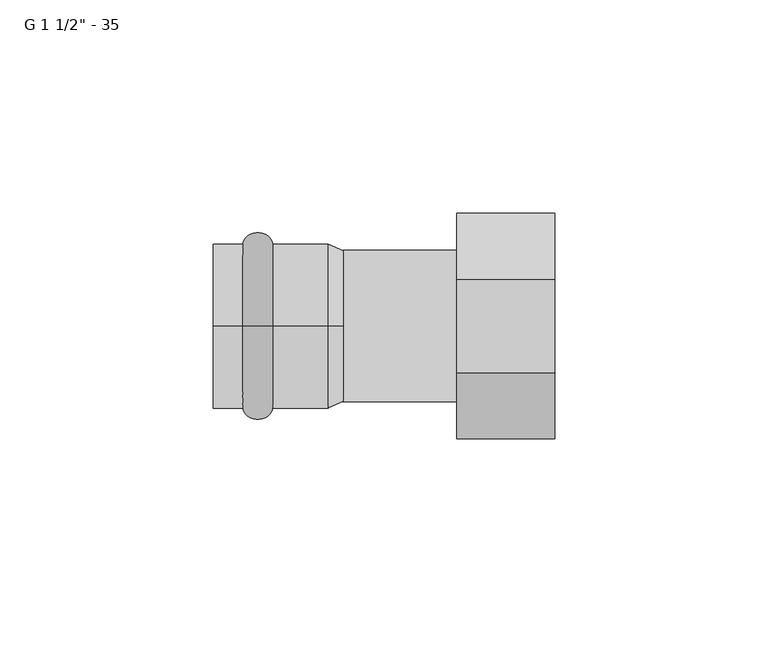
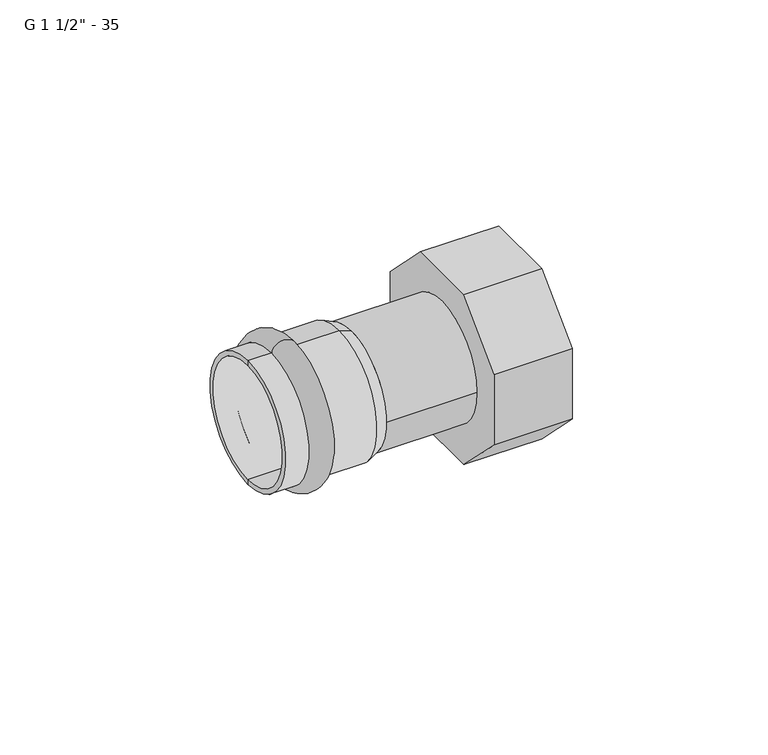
"""IFC4 building model written with IfcOpenShell, lengths in millimetres: pipe fitting geometry."""

import ifcopenshell
import ifcopenshell.guid

model = None  # the IFC model being written
_history = None  # IfcOwnerHistory: only IFC2X3 demands one
_inside = {}  # id of a spatial element -> (the spatial element, [elements in it])
_under = {}  # id of a project, library or spatial element -> (it, [spatial elements below it])
_declared = {}  # id of a project -> (the project, [libraries it declares])
_typed = {}  # id of a type object -> (the type object, [elements of that type])
_made_of = {}  # id of a material, layer set ... -> (it, [elements and type objects made of it])


def new_model(schema):
    """Start an empty IFC model of exactly this schema.

    Asked for "IFC4X3", IfcOpenShell would pick the latest addendum, in which some entities
    have other attributes; the version numbers below select the first issue.
    IFC2X3 requires an IfcOwnerHistory on every rooted entity: one is made here for all.
    """
    global model, _history
    if schema == "IFC4X3":
        model = ifcopenshell.file(schema_version=(4, 3, 0, 0))
    else:
        model = ifcopenshell.file(schema=schema)
    _inside.clear()
    _under.clear()
    _declared.clear()
    _typed.clear()
    _made_of.clear()
    _history = None
    if model.schema == "IFC2X3":
        org = make("IfcOrganization", Name="unknown")
        user = make(
            "IfcPersonAndOrganization",
            ThePerson=make("IfcPerson", FamilyName="unknown"),
            TheOrganization=org,
        )
        app = make(
            "IfcApplication",
            ApplicationDeveloper=org,
            Version="unknown",
            ApplicationFullName="unknown",
            ApplicationIdentifier="unknown",
        )
        _history = make(
            "IfcOwnerHistory",
            OwningUser=user,
            OwningApplication=app,
            ChangeAction="ADDED",
            CreationDate=0,
        )
    return model


def make(cls, **values):
    """One entity of the class cls with the attributes given. An attribute that is None is left unset."""
    return model.create_entity(
        cls, **{name: value for name, value in values.items() if value is not None}
    )


def rooted(cls, **values):
    """An entity with a GlobalId (a new one), such as an element, a storey or a relation."""
    return make(cls, GlobalId=ifcopenshell.guid.new(), OwnerHistory=_history, **values)


def si_unit(unit_type, name, prefix=None):
    """IfcSIUnit, for example si_unit("LENGTHUNIT", "METRE", prefix="MILLI")."""
    return make("IfcSIUnit", UnitType=unit_type, Prefix=prefix, Name=name)


def assignment(units):
    """IfcUnitAssignment: the units of a project."""
    return None if units is None else make("IfcUnitAssignment", Units=units)


def point(xyz):
    """IfcCartesianPoint."""
    return None if xyz is None else make("IfcCartesianPoint", Coordinates=xyz)


def direction(xyz):
    """IfcDirection."""
    return None if xyz is None else make("IfcDirection", DirectionRatios=xyz)


def frame(location, z_axis=None, x_axis=None):
    """IfcAxis2Placement3D, a coordinate frame: its origin and axes. An axis left out is left unset."""
    return make(
        "IfcAxis2Placement3D",
        Location=point(location),
        Axis=direction(z_axis),
        RefDirection=direction(x_axis),
    )


def frame_2d(location, x_axis=None):
    """IfcAxis2Placement2D, a coordinate frame in the plane: its origin and x axis."""
    return make(
        "IfcAxis2Placement2D", Location=point(location), RefDirection=direction(x_axis)
    )


def origin():
    """The frame at (0, 0, 0) with its axes left unset."""
    return frame((0.0, 0.0, 0.0))


def origin_2d():
    """The frame at (0, 0) in the plane with its x axis left unset."""
    return frame_2d((0.0, 0.0))


def place(relative_to, where):
    """IfcLocalPlacement: puts the frame where relative to a parent placement (None: the world)."""
    return make(
        "IfcLocalPlacement", PlacementRelTo=relative_to, RelativePlacement=where
    )


def context(
    kind, dimensions, precision=None, world=None, true_north=None, identifier=None
):
    """IfcGeometricRepresentationContext, for example the 3D "Model" context."""
    return make(
        "IfcGeometricRepresentationContext",
        ContextIdentifier=identifier,
        ContextType=kind,
        CoordinateSpaceDimension=dimensions,
        Precision=precision,
        WorldCoordinateSystem=world,
        TrueNorth=true_north,
    )


def project(units=None, contexts=None):
    """IfcProject with its units and contexts."""
    return rooted(
        "IfcProject",
        Name="project",
        RepresentationContexts=contexts,
        UnitsInContext=assignment(units),
    )


def spatial(cls, under=None, at=None, **own):
    """A site, building, storey or space (cls), placed at a placement, below another one or the project."""
    s = rooted(cls, ObjectPlacement=at, **own)
    if under is not None:
        _under.setdefault(under.id(), (under, []))[1].append(s)
    return s


def polyline(points):
    """IfcPolyline through the points."""
    return make("IfcPolyline", Points=[point(p) for p in points])


def circle_curve(where, radius):
    """IfcCircle in the frame where."""
    return make("IfcCircle", Position=where, Radius=radius)


def ellipse_curve(where, semi_axis1, semi_axis2):
    """IfcEllipse in the frame where."""
    return make(
        "IfcEllipse", Position=where, SemiAxis1=semi_axis1, SemiAxis2=semi_axis2
    )


def trimmed(basis, trim1, trim2, sense, master):
    """IfcTrimmedCurve: the piece of a basis curve between two trims."""
    return make(
        "IfcTrimmedCurve",
        BasisCurve=basis,
        Trim1=trim1,
        Trim2=trim2,
        SenseAgreement=sense,
        MasterRepresentation=master,
    )


def segment(curve, same_sense, transition):
    """IfcCompositeCurveSegment."""
    return make(
        "IfcCompositeCurveSegment",
        Transition=transition,
        SameSense=same_sense,
        ParentCurve=curve,
    )


def composite_curve(segments, self_intersect=None):
    """IfcCompositeCurve: segments joined end to end."""
    return make("IfcCompositeCurve", Segments=segments, SelfIntersect=self_intersect)


def outline(outer, holes=None, kind="AREA"):
    """IfcArbitraryClosedProfileDef: a profile drawn as a closed curve; with holes, ...WithVoids."""
    if holes is None:
        return make("IfcArbitraryClosedProfileDef", ProfileType=kind, OuterCurve=outer)
    return make(
        "IfcArbitraryProfileDefWithVoids",
        ProfileType=kind,
        OuterCurve=outer,
        InnerCurves=holes,
    )


def extrude(swept, where, along, depth):
    """IfcExtrudedAreaSolid: the profile swept, set in the frame where, extruded along a direction by depth."""
    return make(
        "IfcExtrudedAreaSolid",
        SweptArea=swept,
        Position=where,
        ExtrudedDirection=direction(along),
        Depth=depth,
    )


def shape(context_of_items, identifier, shape_type, items):
    """IfcShapeRepresentation: the items that make up one representation, for example the "Body"."""
    return make(
        "IfcShapeRepresentation",
        ContextOfItems=context_of_items,
        RepresentationIdentifier=identifier,
        RepresentationType=shape_type,
        Items=items,
    )


def source(mapping_origin, context_of_items, identifier, shape_type, items):
    """IfcRepresentationMap: a shape defined once, which mapped items show again and again."""
    return make(
        "IfcRepresentationMap",
        MappingOrigin=mapping_origin,
        MappedRepresentation=shape(context_of_items, identifier, shape_type, items),
    )


def transform(
    local_origin,
    x_axis=None,
    y_axis=None,
    z_axis=None,
    scale=None,
    scale2=None,
    scale3=None,
    uniform=True,
):
    """IfcCartesianTransformationOperator3D, or its non-uniform kind. x_axis, y_axis, z_axis: its Axis1, 2, 3."""
    if uniform:
        return make(
            "IfcCartesianTransformationOperator3D",
            Axis1=direction(x_axis),
            Axis2=direction(y_axis),
            LocalOrigin=point(local_origin),
            Scale=scale,
            Axis3=direction(z_axis),
        )
    return make(
        "IfcCartesianTransformationOperator3DnonUniform",
        Axis1=direction(x_axis),
        Axis2=direction(y_axis),
        LocalOrigin=point(local_origin),
        Scale=scale,
        Axis3=direction(z_axis),
        Scale2=scale2,
        Scale3=scale3,
    )


def mapped(mapping_source, mapping_target):
    """IfcMappedItem: shows the shape of a source again, moved by a transform."""
    return make(
        "IfcMappedItem", MappingSource=mapping_source, MappingTarget=mapping_target
    )


def made_of(thing, what):
    """Note that an element or type object is made of a material, layer set ...; save() writes the relation."""
    if what is not None:
        _made_of.setdefault(what.id(), (what, []))[1].append(thing)
    return thing


def element(
    cls,
    number,
    at=None,
    inside=None,
    cuts=None,
    type_object=None,
    material=None,
    context=None,
    identifier="Body",
    shape_type=None,
    held_by="IfcProductDefinitionShape",
    body=None,
    shapes=None,
    **own,
):
    """One element of the class cls, such as IfcWall. Its Tag is "e" and its number.

    at: its placement. inside: the storey or other place that contains it. cuts: it is an
    opening in that element (IfcRelVoidsElement). A single representation is given by context,
    identifier, shape_type and body (its items); several are given by shapes. held_by: the class
    of the entity that holds the representations. save() writes the other relations.
    """
    e = rooted(cls, Tag="e%d" % number, ObjectPlacement=at, **own)
    if body is not None:
        shapes = [shape(context, identifier, shape_type, body)]
    if shapes is not None:
        e.Representation = make(held_by, Representations=shapes)
    if inside is not None:
        _inside.setdefault(inside.id(), (inside, []))[1].append(e)
    if cuts is not None:
        rooted(
            "IfcRelVoidsElement", RelatingBuildingElement=cuts, RelatedOpeningElement=e
        )
    if type_object is not None:
        _typed.setdefault(type_object.id(), (type_object, []))[1].append(e)
    return made_of(e, material)


def aggregate(whole, parts):
    """IfcRelAggregates: a whole, such as a stair, and the parts it consists of."""
    return rooted("IfcRelAggregates", RelatingObject=whole, RelatedObjects=parts)


def save(model, path):
    """Write the relations noted so far, then the file.

    IfcRelAggregates (storeys below a building ...), IfcRelContainedInSpatialStructure (elements
    in a storey), IfcRelDefinesByType, IfcRelAssociatesMaterial and IfcRelDeclares: one each for
    every whole, place, type object, material and project.
    """
    for whole, parts in _under.values():
        aggregate(whole, parts)
    for where, things in _inside.values():
        rooted(
            "IfcRelContainedInSpatialStructure",
            RelatedElements=things,
            RelatingStructure=where,
        )
    for kind, things in _typed.values():
        rooted("IfcRelDefinesByType", RelatedObjects=things, RelatingType=kind)
    for what, things in _made_of.values():
        rooted("IfcRelAssociatesMaterial", RelatedObjects=things, RelatingMaterial=what)
    for by, libraries in _declared.values():
        rooted("IfcRelDeclares", RelatingContext=by, RelatedDefinitions=libraries)
    model.write(path)


def plane_surface(at):
    """IfcPlane: the flat surface through the origin of the frame at, square to its z axis."""
    return make("IfcPlane", Position=at)


def cylinder_surface(at, radius):
    """IfcCylindricalSurface: all points at the distance radius from the z axis of the frame at."""
    return make("IfcCylindricalSurface", Position=at, Radius=radius)


def revolved_surface(curve, axis_point, axis_direction):
    """IfcSurfaceOfRevolution: the curve turned about the line through axis_point along axis_direction."""
    return make(
        "IfcSurfaceOfRevolution",
        SweptCurve=make("IfcArbitraryOpenProfileDef", ProfileType="CURVE", Curve=curve),
        AxisPosition=make("IfcAxis1Placement", Location=point(axis_point), Axis=direction(axis_direction)),
    )


def advanced_brep(points, edges, surfaces, faces):
    """IfcAdvancedBrep: a solid bounded by faces that lie on surfaces and meet in shared edges.

    An edge is (start, end): straight between two places in points (the first is 0);
    or (start, end, curve); or (start, end, curve, False) where it runs against its curve.
    A face is (place in surfaces, loops), or (place, loops, False) where it looks against
    its surface's normal. A loop lists edges by number (the first is 1), with a minus sign
    where the edge is run from its end to its start. The first loop is the outer one.
    """
    corners = [point(p) for p in points]
    vertices = [make("IfcVertexPoint", VertexGeometry=c) for c in corners]
    made = []
    for start, end, *more in edges:
        made.append(
            make(
                "IfcEdgeCurve",
                EdgeStart=vertices[start],
                EdgeEnd=vertices[end],
                EdgeGeometry=more[0] if more else make("IfcPolyline", Points=[corners[start], corners[end]]),
                SameSense=more[1] if len(more) > 1 else True,
            )
        )
    hull = []
    for where, loops, *sense in faces:
        bounds = []
        for j, loop in enumerate(loops):
            ring = [make("IfcOrientedEdge", EdgeElement=made[abs(k) - 1], Orientation=k > 0) for k in loop]
            bounds.append(
                make(
                    "IfcFaceOuterBound" if j == 0 else "IfcFaceBound",
                    Bound=make("IfcEdgeLoop", EdgeList=ring),
                    Orientation=True,
                )
            )
        hull.append(make("IfcAdvancedFace", Bounds=bounds, FaceSurface=surfaces[where], SameSense=sense[0] if sense else True))
    return make("IfcAdvancedBrep", Outer=make("IfcClosedShell", CfsFaces=hull))


def pipe_fitting_a0752ca9(model_context):
    return source(origin(), model_context, "Body", "SolidModel", [
        advanced_brep(
        [(-20.0, 0.0, 19.25), (-20.0, 0.0, -19.25), (-13.0, 0.0, -19.25), (-13.0, 0.0, 19.25)],
        [
            (0, 1, circle_curve(frame((-20.0, 0.0, 0.0), z_axis=(-1.0, 0.0, 0.0), x_axis=(0.0, 0.0, -1.0)), 19.25)),
            (1, 2),
            (2, 3, circle_curve(frame((-13.0, 0.0, 0.0), z_axis=(1.0, 0.0, 0.0), x_axis=(0.0, 0.0, -1.0)), 19.25)),
            (3, 0),
            (1, 0, circle_curve(frame((-20.0, 0.0, 0.0), z_axis=(-1.0, 0.0, 0.0), x_axis=(0.0, 0.0, -1.0)), 19.25)),
            (3, 2, circle_curve(frame((-13.0, 0.0, 0.0), z_axis=(1.0, 0.0, 0.0), x_axis=(0.0, 0.0, -1.0)), 19.25)),
            (2, 1, ellipse_curve(frame((-16.5, 0.0, -19.25), z_axis=(0.0, 1.0, 0.0), x_axis=(-1.0, 0.0, 0.0)), 3.5, 2.75)),
            (0, 3, ellipse_curve(frame((-16.5, 0.0, 19.25), z_axis=(0.0, 1.0, 0.0), x_axis=(-1.0, 0.0, 0.0)), 3.5, 2.75)),
        ],
        [
            revolved_surface(polyline([(-13.0, 0.0, -19.25), (-20.0, 0.0, -19.25)]), (3.0, 0.0, 0.0), (1.0, 0.0, 0.0)),
            revolved_surface(trimmed(ellipse_curve(frame((-16.5, 0.0, -19.25), z_axis=(0.0, -1.0, 0.0), x_axis=(-1.0, 0.0, 0.0)), 3.5, 2.75), [point((-20.0, 0.0, -19.25))], [point((-13.0, 0.0, -19.25))], True, "CARTESIAN"), (3.0, 0.0, 0.0), (1.0, 0.0, 0.0)),
        ],
        [
            (0, [[1, 2, 3, 4]]),
            (0, [[5, -4, 6, -2]]),
            (1, [[-3, 7, -1, 8]]),
            (1, [[-6, -8, -5, -7]]),
        ],
    ),
        advanced_brep(
        [(3.5337785, 0.0, 17.75), (3.5337785, 0.0, -17.75), (0.0, 0.0, -19.25), (0.0, 0.0, 19.25), (-27.0, 0.0, 17.75), (-27.0, 0.0, -17.75), (-27.0, 0.0, 19.25), (-27.0, 0.0, -19.25)],
        [
            (0, 1, circle_curve(frame((3.5337785, 0.0, 0.0), z_axis=(-1.0, 0.0, 0.0), x_axis=(0.0, 0.0, -1.0)), 17.75)),
            (1, 2),
            (2, 3, circle_curve(frame((0.0, 0.0, 0.0), z_axis=(1.0, 0.0, 0.0), x_axis=(0.0, 0.0, -1.0)), 19.25)),
            (3, 0),
            (1, 0, circle_curve(frame((3.5337785, 0.0, 0.0), z_axis=(-1.0, 0.0, 0.0), x_axis=(0.0, 0.0, -1.0)), 17.75)),
            (3, 2, circle_curve(frame((0.0, 0.0, 0.0), z_axis=(1.0, 0.0, 0.0), x_axis=(0.0, 0.0, -1.0)), 19.25)),
            (4, 5, circle_curve(frame((-27.0, 0.0, 0.0), z_axis=(-1.0, 0.0, 0.0), x_axis=(0.0, 0.0, -1.0)), 17.75)),
            (5, 1),
            (0, 4),
            (5, 4, circle_curve(frame((-27.0, 0.0, 0.0), z_axis=(-1.0, 0.0, 0.0), x_axis=(0.0, 0.0, -1.0)), 17.75)),
            (6, 7, circle_curve(frame((-27.0, 0.0, 0.0), z_axis=(-1.0, 0.0, 0.0), x_axis=(0.0, 0.0, -1.0)), 19.25)),
            (7, 5),
            (4, 6),
            (7, 6, circle_curve(frame((-27.0, 0.0, 0.0), z_axis=(-1.0, 0.0, 0.0), x_axis=(0.0, 0.0, -1.0)), 19.25)),
            (2, 7),
            (6, 3),
        ],
        [
            revolved_surface(polyline([(0.0, 0.0, -19.25), (3.5337785, 0.0, -17.75)]), (3.0, 0.0, 0.0), (1.0, 0.0, 0.0)),
            revolved_surface(polyline([(3.5337785, 0.0, -17.75), (-27.0, 0.0, -17.75)]), (3.0, 0.0, 0.0), (1.0, 0.0, 0.0)),
            plane_surface(frame((-27.0, 0.0, 0.0), z_axis=(-1.0, 0.0, 0.0), x_axis=(0.0, 0.0, -1.0))),
            cylinder_surface(frame((3.0, 0.0, 0.0), z_axis=(1.0, 0.0, 0.0), x_axis=(0.0, 0.0, -1.0)), 19.25),
        ],
        [
            (0, [[1, 2, 3, 4]]),
            (0, [[5, -4, 6, -2]]),
            (1, [[7, 8, -1, 9]]),
            (1, [[10, -9, -5, -8]]),
            (2, [[11, 12, -7, 13]]),
            (2, [[14, -13, -10, -12]]),
            (3, [[-3, 15, -11, 16]]),
            (3, [[-6, -16, -14, -15]]),
        ],
    ),
        extrude(outline(composite_curve([segment(trimmed(circle_curve(origin_2d(), 17.75), [point((-17.75, 0.0))], [point((17.75, 0.0))], False, "CARTESIAN"), True, "CONTINUOUS"), segment(trimmed(circle_curve(origin_2d(), 17.75), [point((17.75, 0.0))], [point((-17.75, 0.0))], False, "CARTESIAN"), True, "CONTINUOUS")], self_intersect=False)), frame((3.5337785, 0.0, 0.0), z_axis=(1.0, 0.0, 0.0), x_axis=(0.0, 1.0, 0.0)), (0.0, 0.0, 1.0), 26.7),
        advanced_brep(
        [(53.2337785, -26.5, -10.9766594), (30.2337785, -26.5, -10.9766594), (30.2337785, -10.9766594, -26.5), (53.2337785, -10.9766594, -26.5), (30.2337785, 10.9766594, -26.5), (53.2337785, 10.9766594, -26.5), (53.2337785, 26.5, 10.9766594), (30.2337785, 26.5, 10.9766594), (30.2337785, 10.9766594, 26.5), (53.2337785, 10.9766594, 26.5), (30.2337785, -10.9766594, 26.5), (53.2337785, -10.9766594, 26.5), (30.2337785, 26.5, -10.9766594), (53.2337785, 26.5, -10.9766594), (30.2337785, -26.5, 10.9766594), (53.2337785, -26.5, 10.9766594), (36.2337785, -24.0, 0.0), (36.2337785, 24.0, 0.0), (36.2337785, -6.8345238, -16.5), (36.2337785, -16.5, -6.8345238), (36.2337785, -16.5, 6.8345238), (36.2337785, -6.8345238, 16.5), (36.2337785, 6.8345238, 16.5), (36.2337785, 16.5, 6.8345238), (36.2337785, 16.5, -6.8345238), (36.2337785, 6.8345238, -16.5), (53.2337785, 24.0, 0.0), (53.2337785, -24.0, 0.0), (30.2337785, -16.5, -6.8345238), (30.2337785, -6.8345238, -16.5), (30.2337785, 6.8345238, -16.5), (30.2337785, 16.5, -6.8345238), (30.2337785, 16.5, 6.8345238), (30.2337785, 6.8345238, 16.5), (30.2337785, -6.8345238, 16.5), (30.2337785, -16.5, 6.8345238)],
        [
            (0, 1),
            (1, 2),
            (2, 3),
            (3, 0),
            (2, 4),
            (4, 5),
            (5, 3),
            (6, 7),
            (7, 8),
            (8, 9),
            (9, 6),
            (8, 10),
            (10, 11),
            (11, 9),
            (4, 12),
            (12, 13),
            (13, 5),
            (10, 14),
            (14, 15),
            (15, 11),
            (16, 17, circle_curve(frame((36.2337785, 0.0, 0.0), z_axis=(1.0, 0.0, 0.0), x_axis=(0.0, 1.0, 0.0)), 24.0)),
            (17, 16, circle_curve(frame((36.2337785, 0.0, 0.0), z_axis=(1.0, 0.0, 0.0), x_axis=(0.0, 1.0, 0.0)), 24.0)),
            (18, 19),
            (19, 20),
            (20, 21),
            (21, 22),
            (22, 23),
            (23, 24),
            (24, 25),
            (25, 18),
            (17, 26),
            (26, 27, circle_curve(frame((53.2337785, 0.0, 0.0), z_axis=(1.0, 0.0, 0.0), x_axis=(0.0, 1.0, 0.0)), 24.0)),
            (27, 16),
            (27, 26, circle_curve(frame((53.2337785, 0.0, 0.0), z_axis=(1.0, 0.0, 0.0), x_axis=(0.0, 1.0, 0.0)), 24.0)),
            (6, 13),
            (12, 7),
            (15, 0),
            (1, 14),
            (28, 29),
            (29, 30),
            (30, 31),
            (31, 32),
            (32, 33),
            (33, 34),
            (34, 35),
            (35, 28),
            (28, 19),
            (18, 29),
            (25, 30),
            (32, 23),
            (22, 33),
            (21, 34),
            (24, 31),
            (20, 35),
        ],
        [
            plane_surface(frame((30.2337785, -26.5, -10.9766594), z_axis=(0.0, -0.7071067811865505, -0.7071067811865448), x_axis=(0.0, 0.7071067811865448, -0.7071067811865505))),
            plane_surface(frame((30.2337785, -10.9766594, -26.5), z_axis=(0.0, 0.0, -1.0), x_axis=(0.0, 1.0, 0.0))),
            plane_surface(frame((30.2337785, 26.5, 10.9766594), z_axis=(0.0, 0.707106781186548, 0.7071067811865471), x_axis=(0.0, -0.7071067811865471, 0.707106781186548))),
            plane_surface(frame((30.2337785, 10.9766594, 26.5), z_axis=(0.0, 0.0, 1.0), x_axis=(0.0, -1.0, 0.0))),
            plane_surface(frame((30.2337785, 10.9766594, -26.5), z_axis=(0.0, 0.707106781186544, -0.7071067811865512), x_axis=(0.0, 0.7071067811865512, 0.707106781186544))),
            plane_surface(frame((30.2337785, -10.9766594, 26.5), z_axis=(0.0, -0.7071067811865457, 0.7071067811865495), x_axis=(0.0, -0.7071067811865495, -0.7071067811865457))),
            plane_surface(frame((36.2337785, 24.0, 0.0), z_axis=(1.0, 0.0, 0.0), x_axis=(0.0, 0.0, -1.0))),
            revolved_surface(polyline([(53.2337785, 24.0, 0.0), (36.2337785, 24.0, 0.0)]), (36.2337785, 0.0, 0.0), (1.0, 0.0, 0.0)),
            plane_surface(frame((30.2337785, 26.5, -10.9766594), z_axis=(0.0, 1.0, 0.0), x_axis=(0.0, 0.0, 1.0))),
            plane_surface(frame((53.2337785, -26.5, 10.9766594), z_axis=(1.0, 0.0, 0.0), x_axis=(0.0, 0.0, -1.0))),
            plane_surface(frame((30.2337785, -16.5, 6.8345238), z_axis=(-1.0, 0.0, 0.0), x_axis=(0.0, 0.0, -1.0))),
            plane_surface(frame((30.2337785, -26.5, 10.9766594), z_axis=(0.0, -1.0, 0.0), x_axis=(0.0, 0.0, -1.0))),
            plane_surface(frame((53.2337785, -16.5, -6.8345238), z_axis=(0.0, 0.7071067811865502, 0.7071067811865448), x_axis=(0.0, 0.7071067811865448, -0.7071067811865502))),
            plane_surface(frame((53.2337785, -6.8345238, -16.5), z_axis=(0.0, 0.0, 1.0), x_axis=(0.0, 1.0, 0.0))),
            plane_surface(frame((53.2337785, 16.5, 6.8345238), z_axis=(0.0, -0.707106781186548, -0.7071067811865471), x_axis=(0.0, -0.7071067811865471, 0.707106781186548))),
            plane_surface(frame((53.2337785, 6.8345238, 16.5), z_axis=(0.0, 0.0, -1.0), x_axis=(0.0, -1.0, 0.0))),
            plane_surface(frame((53.2337785, 6.8345238, -16.5), z_axis=(0.0, -0.7071067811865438, 0.7071067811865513), x_axis=(0.0, 0.7071067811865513, 0.7071067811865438))),
            plane_surface(frame((53.2337785, -6.8345238, 16.5), z_axis=(0.0, 0.7071067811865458, -0.7071067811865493), x_axis=(0.0, -0.7071067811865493, -0.7071067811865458))),
            plane_surface(frame((53.2337785, 16.5, -6.8345238), z_axis=(0.0, -1.0, 0.0), x_axis=(0.0, 0.0, 1.0))),
            plane_surface(frame((53.2337785, -16.5, 6.8345238), z_axis=(0.0, 1.0, 0.0), x_axis=(0.0, 0.0, -1.0))),
        ],
        [
            (0, [[1, 2, 3, 4]]),
            (1, [[-3, 5, 6, 7]]),
            (2, [[8, 9, 10, 11]]),
            (3, [[-10, 12, 13, 14]]),
            (4, [[-6, 15, 16, 17]]),
            (5, [[-13, 18, 19, 20]]),
            (6, [[21, 22], [23, 24, 25, 26, 27, 28, 29, 30]]),
            (7, [[-22, 31, 32, 33]]),
            (7, [[-21, -33, 34, -31]]),
            (8, [[-8, 35, -16, 36]]),
            (9, [[-4, -7, -17, -35, -11, -14, -20, 37], [-32, -34]]),
            (10, [[-2, 38, -18, -12, -9, -36, -15, -5], [39, 40, 41, 42, 43, 44, 45, 46]]),
            (11, [[-1, -37, -19, -38]]),
            (12, [[-39, 47, -23, 48]]),
            (13, [[-40, -48, -30, 49]]),
            (14, [[-43, 50, -27, 51]]),
            (15, [[-44, -51, -26, 52]]),
            (16, [[-41, -49, -29, 53]]),
            (17, [[-45, -52, -25, 54]]),
            (18, [[-42, -53, -28, -50]]),
            (19, [[-46, -54, -24, -47]]),
        ],
    ),
    ])


if __name__ == "__main__":
    model = new_model("IFC4")
    model_context = context("Model", 3, world=origin())
    ifc_project = project(units=[si_unit("LENGTHUNIT", "METRE", prefix="MILLI")], contexts=[model_context])
    site = spatial("IfcSite", under=ifc_project)
    building = spatial("IfcBuilding", under=site)
    placement = place(None, origin())
    pipe_fitting_shape = pipe_fitting_a0752ca9(model_context)
    element("IfcPipeFitting", 1, ObjectType="РЕХАУ_Пресс Муфта с накидной гайкой : G 1 1/2\" - 35", at=placement, inside=building, context=model_context, shape_type="MappedRepresentation", body=[
        mapped(pipe_fitting_shape, transform((0.0, 0.0, 0.0), x_axis=(1.0, 0.0, 0.0), y_axis=(0.0, 1.0, 0.0), z_axis=(0.0, 0.0, 1.0))),
    ])
    save(model, "model.ifc")
